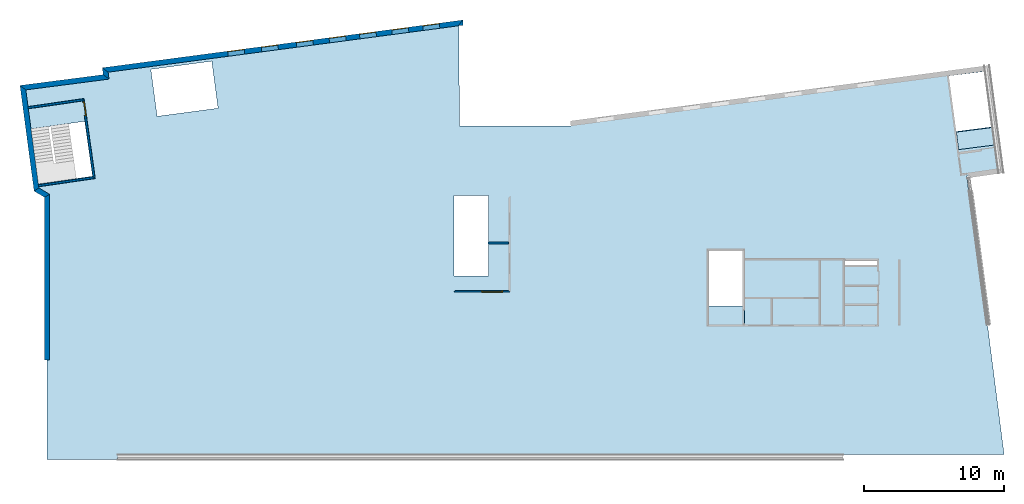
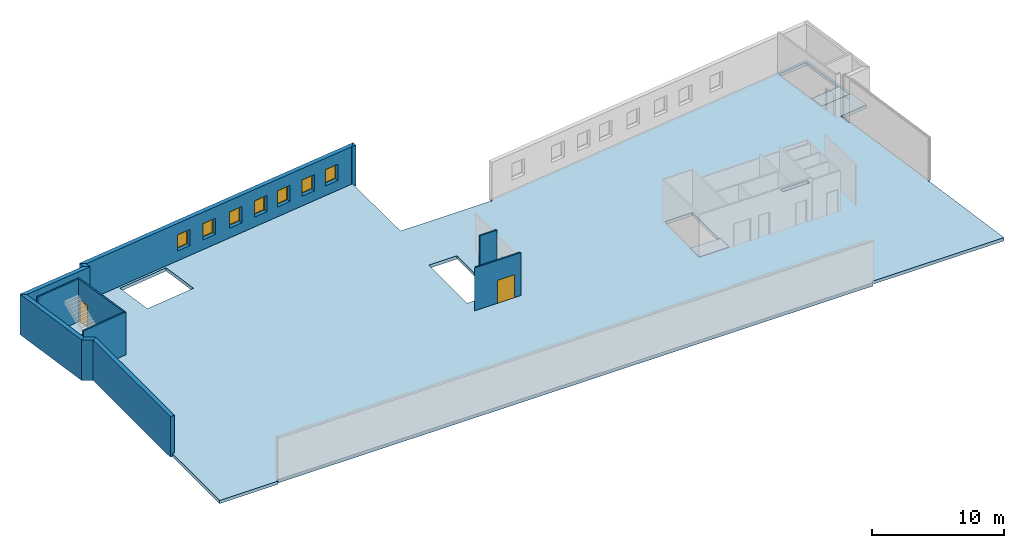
# One storey, part 1 of 9: 12 walls, 7 windows, 3 slabs, 2 doors, 15 openings.
"""IFC2X3 building model written with IfcOpenShell, lengths in metres."""

from ifc_helpers import new_model, entity, si_unit, converted_unit, money_unit, direction, frame, origin_with_axes, origin_2d_with_axis, place, context, subcontext, project, spatial, polyline, rectangle, outline, extrude, faceted_brep, source, transform, mapped, material, material_list, layer, layer_set, layer_usage, type_object, element, fill, save


model = new_model("IFC2X3")

# Units and contexts
model_context = context("Model", 3, precision=1e-05, world=origin_with_axes(), true_north=direction((0.0, 1.0)))
body_context = subcontext(model_context, "Body", "Model", "MODEL_VIEW")
ifc_project = project(units=[si_unit("LENGTHUNIT", "METRE"), si_unit("AREAUNIT", "SQUARE_METRE"), si_unit("VOLUMEUNIT", "CUBIC_METRE"), converted_unit("PLANEANGLEUNIT", "DEGREE", entity("IfcPlaneAngleMeasure", 0.0174532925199), si_unit("PLANEANGLEUNIT", "RADIAN"), dimensions=[0, 0, 0, 0, 0, 0, 0]), si_unit("SOLIDANGLEUNIT", "STERADIAN"), money_unit("EUR"), converted_unit("TIMEUNIT", "Year", entity("IfcTimeMeasure", 31556926.0), si_unit("TIMEUNIT", "SECOND"), dimensions=[0, 0, 0, 0, 0, 0, 0]), si_unit("MASSUNIT", "GRAM"), si_unit("THERMODYNAMICTEMPERATUREUNIT", "DEGREE_CELSIUS"), si_unit("LUMINOUSINTENSITYUNIT", "LUMEN")], contexts=[model_context])

# Site, building, storey
site_placement = place(None, origin_with_axes())
site = spatial("IfcSite", under=ifc_project, at=site_placement, Name="Undefined", CompositionType="ELEMENT")
building_placement = place(site_placement, origin_with_axes())
building = spatial("IfcBuilding", under=site, at=building_placement, Name="Undefined", CompositionType="ELEMENT")
storey_placement = place(building_placement, frame((0.0, 0.0, 13.45), z_axis=(0.0, 0.0, 1.0), x_axis=(1.0, 0.0, 0.0)))
storey = spatial("IfcBuildingStorey", under=building, at=storey_placement, Name="R+2", CompositionType="ELEMENT", Elevation=13.45)

# Slabs
ifc_material_1 = material(Name="% Ê25 359672764")
ifc_layer_1 = layer(ifc_material_1, 0.2, ventilated="UNKNOWN")
ifc_layer_set_1 = layer_set([ifc_layer_1], Name="% Ê25 359672764 0.2")
ifc_layer_usage_1 = layer_usage(ifc_layer_set_1, "AXIS3", "NEGATIVE", 0.2)
slab_type_1 = type_object("IfcSlabType", Name="% Ê25 359672764 200", PredefinedType="FLOOR")
slab_1_placement = place(storey_placement, frame((65.1308550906, 21.8584994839, 0.0), z_axis=(0.0, 0.0, 1.0), x_axis=(1.0, 0.0, 0.0)))
element("IfcSlab", 1, at=slab_1_placement, inside=storey, type_object=slab_type_1, material=ifc_layer_usage_1, Name="SLAB", ObjectType="200*31407", PredefinedType="FLOOR", context=body_context, shape_type="SweptSolid", body=[
    extrude(outline(polyline([(0.0, 0.0), (2.57257127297, 0.329360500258), (2.41175257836, 1.58548427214), (-0.160818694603, 1.25612377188), (0.0, 0.0)])), frame((0.0, 0.0, -0.2), z_axis=(0.0, 0.0, 1.0), x_axis=(1.0, 0.0, 0.0)), (0.0, 0.0, 1.0), 0.2),
])
ifc_layer_usage_2 = layer_usage(ifc_layer_set_1, "AXIS3", "NEGATIVE", 0.2)
slab_2_placement = place(storey_placement, frame((47.175, 9.3, 0.0), z_axis=(0.0, 0.0, 1.0), x_axis=(1.0, 0.0, 0.0)))
element("IfcSlab", 2, at=slab_2_placement, inside=storey, type_object=slab_type_1, material=ifc_layer_usage_2, Name="SLAB", ObjectType="200*31407", PredefinedType="FLOOR", context=body_context, shape_type="SweptSolid", body=[
    extrude(outline(polyline([(0.0, 0.0), (2.625, 0.0), (2.625, 1.34137655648), (0.0, 1.34137655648), (0.0, 0.0)])), frame((0.0, 0.0, -0.2), z_axis=(0.0, 0.0, 1.0), x_axis=(1.0, 0.0, 0.0)), (0.0, 0.0, 1.0), 0.2),
])

# Slab, openings
ifc_material_2 = material(Name="Struct. - Chape")
ifc_layer_2 = layer(ifc_material_2, 0.06, ventilated="UNKNOWN")
ifc_material_3 = material(Name="Isolation Int. - Polyur\x8ethane")
ifc_layer_3 = layer(ifc_material_3, 0.06, ventilated="UNKNOWN")
ifc_material_4 = material(Name="Struct. - B.A. coul\x8e")
ifc_layer_4 = layer(ifc_material_4, 0.18, ventilated="UNKNOWN")
ifc_layer_set_2 = layer_set([ifc_layer_2, ifc_layer_3, ifc_layer_4], Name="5.0-Dalle & Chape (Simplifi\x8e)")
ifc_layer_usage_3 = layer_usage(ifc_layer_set_2, "AXIS3", "NEGATIVE", 0.3)
slab_type_2 = type_object("IfcSlabType", Name="200*30675", PredefinedType="NOTDEFINED")
slab_3_placement = place(storey_placement, frame((-1.92907667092, 26.291143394, 0.0), z_axis=(0.0, 0.0, 1.0), x_axis=(1.0, 0.0, 0.0)))
slab_3 = element("IfcSlab", 3, at=slab_3_placement, inside=storey, type_object=slab_type_2, material=ifc_layer_usage_3, Name="SLAB", ObjectType="200*30749", PredefinedType="FLOOR", context=body_context, shape_type="SweptSolid", body=[
    extrude(outline(polyline([(0.0, 0.0), (0.973697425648, -7.29749334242), (1.73407667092, -7.74969683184), (1.73407667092, -26.6457025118), (6.80357304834, -26.6317334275), (6.80407667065, -26.4861433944), (58.7786423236, -26.4885152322), (58.7790766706, -26.2911433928), (70.3117266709, -26.291143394), (70.2985010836, -26.192021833), (70.3086688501, -26.1906119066), (69.1415122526, -17.082470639), (69.0840722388, -17.0902648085), (69.0706962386, -16.9911638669), (69.1817123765, -16.9763511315), (67.8943881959, -7.34977121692), (67.7767052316, -7.36458293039), (67.6422548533, -6.29621870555), (70.0817637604, -5.94765990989), (69.1088320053, 1.41362334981), (39.2533897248, -2.55374235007), (39.2790766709, -2.74704319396), (31.2954418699, -2.74705360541), (31.2475990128, 4.63848560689), (5.88914447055, 1.28077179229), (5.95519585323, 0.785742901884), (0.0, 0.0)])), frame((0.0, 0.0, -0.3), z_axis=(0.0, 0.0, 1.0), x_axis=(1.0, 0.0, 0.0)), (0.0, 0.0, 1.0), 0.3),
])
opening_1_placement = place(slab_3_placement, origin_with_axes())
element("IfcOpeningElement", 4, at=opening_1_placement, cuts=slab_3, Name="Slab Opening", context=body_context, shape_type="SweptSolid", body=[
    extrude(outline(polyline([(30.8891573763, -13.4910747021), (33.3571471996, -13.4910747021), (33.3571471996, -7.71107470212), (30.8891573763, -7.71107470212), (30.8891573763, -13.4910747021)])), frame((0.0, 0.0, -0.3), z_axis=(0.0, 0.0, 1.0), x_axis=(1.0, 0.0, 0.0)), (0.0, 0.0, 1.0), 0.3),
])
opening_2_placement = place(slab_3_placement, origin_with_axes())
element("IfcOpeningElement", 5, at=opening_2_placement, cuts=slab_3, Name="Slab Opening", context=body_context, shape_type="SweptSolid", body=[
    extrude(outline(polyline([(51.6040766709, -16.991143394), (51.6040766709, -11.6662395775), (49.1790766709, -11.6662395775), (49.1790766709, -16.991143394), (51.6040766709, -16.991143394)])), frame((0.0, 0.0, -0.3), z_axis=(0.0, 0.0, 1.0), x_axis=(1.0, 0.0, 0.0)), (0.0, 0.0, 1.0), 0.3),
])
opening_3_placement = place(slab_3_placement, origin_with_axes())
element("IfcOpeningElement", 6, at=opening_3_placement, cuts=slab_3, Name="Slab Opening", context=body_context, shape_type="SweptSolid", body=[
    extrude(outline(polyline([(58.8540766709, -12.366143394), (58.8540766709, -12.716143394), (61.2540766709, -12.716143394), (61.2540766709, -12.366143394), (58.8540766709, -12.366143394)])), frame((0.0, 0.0, -0.3), z_axis=(0.0, 0.0, 1.0), x_axis=(1.0, 0.0, 0.0)), (0.0, 0.0, 1.0), 0.3),
])
opening_4_placement = place(slab_3_placement, origin_with_axes())
element("IfcOpeningElement", 7, at=opening_4_placement, cuts=slab_3, Name="Slab Opening", context=body_context, shape_type="SweptSolid", body=[
    extrude(outline(polyline([(66.871058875, -3.13486957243), (69.4703582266, -2.801672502), (68.9376368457, 1.16966160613), (66.3389662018, 0.848833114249), (66.871058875, -3.13486957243)])), frame((0.0, 0.0, -0.3), z_axis=(0.0, 0.0, 1.0), x_axis=(1.0, 0.0, 0.0)), (0.0, 0.0, 1.0), 0.3),
])
opening_5_placement = place(slab_3_placement, origin_with_axes())
element("IfcOpeningElement", 8, at=opening_5_placement, cuts=slab_3, Name="Slab Opening", context=body_context, shape_type="SweptSolid", body=[
    extrude(outline(polyline([(9.1802689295, 1.3205673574), (9.62783463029, -2.04747908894), (13.9912887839, -1.46763779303), (13.5437230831, 1.90040865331), (9.1802689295, 1.3205673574)])), frame((0.0, 0.0, -0.3), z_axis=(0.0, 0.0, 1.0), x_axis=(1.0, 0.0, 0.0)), (0.0, 0.0, 1.0), 0.3),
])
opening_6_placement = place(slab_3_placement, origin_with_axes())
element("IfcOpeningElement", 9, at=opening_6_placement, cuts=slab_3, Name="Slab Opening", context=body_context, shape_type="SweptSolid", body=[
    extrude(outline(polyline([(0.605132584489, -2.95342469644), (1.16837552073, -6.88580394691), (4.99499918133, -6.33770860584), (4.43175624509, -2.40532935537), (0.605132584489, -2.95342469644)])), frame((0.0, 0.0, -0.3), z_axis=(0.0, 0.0, 1.0), x_axis=(1.0, 0.0, 0.0)), (0.0, 0.0, 1.0), 0.3),
])

# Wall
ifc_material_5 = material(Name="Finition int - Enduit pl\x89tre")
ifc_layer_5 = layer(ifc_material_5, 0.015, ventilated="UNKNOWN")
ifc_material_6 = material(Name="Struct. - Parpaing b\x8eton")
ifc_layer_6 = layer(ifc_material_6, 0.1, ventilated="UNKNOWN")
ifc_layer_7 = layer(ifc_material_5, 0.015, ventilated="UNKNOWN")
ifc_layer_set_3 = layer_set([ifc_layer_5, ifc_layer_6, ifc_layer_7], Name="0.0-Cloison: parpaing + pl\x89tre 2 faces copie")
ifc_layer_usage_4 = layer_usage(ifc_layer_set_3, "AXIS2", "NEGATIVE", 0.0)
wall_type_1 = type_object("IfcWallType", Name="0.0-Cloison: parpaing + pl\x89tre 2 faces copie 130", PredefinedType="NOTDEFINED")
wall_1_placement = place(storey_placement, frame((33.0137357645, 15.100969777, -0.12), z_axis=(0.0, 0.0, 1.0), x_axis=(-1.0, 0.0, 0.0)))
element("IfcWallStandardCase", 10, at=wall_1_placement, inside=storey, type_object=wall_type_1, material=ifc_layer_usage_4, Name="Wall_Int_02", ObjectType="WALL", context=body_context, shape_type="SweptSolid", body=[
    extrude(outline(polyline([(0.13, -0.13), (1.58893128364, -0.13), (1.58928017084, 0.0), (0.13, 0.0), (0.13, -0.13)])), origin_with_axes(), (0.0, 0.0, 1.0), 4.07),
])

# Wall, opening, door
ifc_layer_usage_5 = layer_usage(ifc_layer_set_3, "AXIS2", "NEGATIVE", 0.0)
wall_2_placement = place(storey_placement, frame((33.0137357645, 11.6449226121, -0.12), z_axis=(0.0, 0.0, 1.0), x_axis=(-1.0, 0.0, 0.0)))
wall_2 = element("IfcWallStandardCase", 11, at=wall_2_placement, inside=storey, type_object=wall_type_1, material=ifc_layer_usage_5, Name="Wall_Int_02", ObjectType="WALL", context=body_context, shape_type="SweptSolid", body=[
    extrude(outline(polyline([(0.13, -0.13), (3.92496966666, -0.13), (4.05496966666, 0.0), (0.0, 0.0), (0.13, -0.13)])), origin_with_axes(), (0.0, 0.0, 1.0), 4.07),
])
opening_7_placement = place(wall_2_placement, frame((1.31627256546, 0.0, 0.12), z_axis=(0.0, 0.0, 1.0), x_axis=(1.0, 0.0, 0.0)))
opening_7 = element("IfcOpeningElement", 12, at=opening_7_placement, cuts=wall_2, Name="DOOR", context=body_context, shape_type="SweptSolid", body=[
    extrude(rectangle(XDim=1.5, YDim=2.1, at=origin_2d_with_axis()), frame((0.0, 0.13, 1.05), z_axis=(0.0, -1.0, 0.0), x_axis=(1.0, 0.0, 0.0)), (0.0, 0.0, 1.0), 0.13),
    extrude(rectangle(XDim=1.5, YDim=2.1, at=origin_2d_with_axis()), frame((0.0, -0.13, 1.05), z_axis=(0.0, 1.0, 0.0), x_axis=(1.0, 0.0, 0.0)), (0.0, 0.0, 1.0), 0.13),
])
ifc_material_7 = material(Name="Background Fill-International")
ifc_material_8 = material(Name="Air Space")
ifc_material_list_1 = material_list([ifc_material_7, ifc_material_8])
door_style_1 = type_object("IfcDoorStyle", Name="IFC Porte double - Simple battant", ConstructionType="ALUMINIUM", OperationType="DOUBLE_DOOR_SINGLE_SWING", ParameterTakesPrecedence=True, Sizeable=False)
shared_shape_1 = source(origin_with_axes(), body_context, "Body", "Brep", [
    faceted_brep([(-0.75, 0.0, 0.0), (-0.7, 0.0, 0.0), (-0.7, -0.1, 0.0), (-0.75, -0.1, 0.0), (-0.75, 0.0, 2.1), (0.75, 0.0, 2.1), (0.75, 0.0, 0.0), (0.7, 0.0, 0.0), (0.7, 0.0, 2.05), (-0.7, 0.0, 2.05), (-0.7, -0.1, 2.05), (0.7, -0.1, 2.05), (0.7, -0.1, 0.0), (0.75, -0.1, 0.0), (0.75, -0.1, 2.1), (-0.75, -0.1, 2.1)], [[[0, 1, 2, 3]], [[0, 4, 5, 6, 7, 8, 9, 1]], [[1, 9, 10, 2]], [[3, 2, 10, 11, 12, 13, 14, 15]], [[4, 0, 3, 15]], [[5, 4, 15, 14]], [[6, 5, 14, 13]], [[7, 6, 13, 12]], [[8, 7, 12, 11]], [[9, 8, 11, 10]]]),
    faceted_brep([(0.7, 0.0, 0.0), (0.7, 0.0, 2.05), (0.7, -0.04, 2.05), (0.7, -0.04, 0.0), (0.0, 0.0, 0.0), (0.0, 0.0, 2.05), (0.0, -0.04, 2.05), (0.0, -0.04, 0.0)], [[[0, 1, 2, 3]], [[0, 4, 5, 1]], [[1, 5, 6, 2]], [[3, 2, 6, 7]], [[4, 0, 3, 7]], [[5, 4, 7, 6]]]),
    faceted_brep([(-0.7, 0.0, 0.0), (0.0, 0.0, 0.0), (0.0, -0.04, 0.0), (-0.7, -0.04, 0.0), (-0.7, 0.0, 2.05), (0.0, 0.0, 2.05), (0.0, -0.04, 2.05), (-0.7, -0.04, 2.05)], [[[0, 1, 2, 3]], [[0, 4, 5, 1]], [[1, 5, 6, 2]], [[3, 2, 6, 7]], [[4, 0, 3, 7]], [[5, 4, 7, 6]]]),
])
door_1_placement = place(opening_7_placement, frame((-0.75, 0.0, 0.0), z_axis=(0.0, 0.0, 1.0), x_axis=(1.0, 0.0, 0.0)))
door_1 = element("IfcDoor", 13, at=door_1_placement, inside=storey, type_object=door_style_1, material=ifc_material_list_1, Name="DOOR", ObjectType="DOOR", OverallHeight=2.1, OverallWidth=1.5, context=body_context, shape_type="MappedRepresentation", body=[
    mapped(shared_shape_1, transform((0.75, 0.0, 0.0))),
])
fill(opening_7, door_1)

# Wall
ifc_layer_usage_6 = layer_usage(ifc_layer_set_3, "AXIS2", "POSITIVE", 0.0)
wall_3_placement = place(storey_placement, frame((-1.71648521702, 24.773461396, 0.0), z_axis=(0.0, 0.0, 1.0), x_axis=(0.98989746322, 0.14178509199, 0.0)))
element("IfcWallStandardCase", 14, at=wall_3_placement, inside=storey, type_object=wall_type_1, material=ifc_layer_usage_6, Name="Wall_Int_02", context=body_context, shape_type="SweptSolid", body=[
    extrude(outline(polyline([(0.185008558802, 0.0), (4.10068565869, 0.0), (4.23113466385, 0.13), (0.186259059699, 0.13), (0.185008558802, 0.0)])), origin_with_axes(), (0.0, 0.0, 1.0), 3.95),
])

# Wall, opening, door
ifc_layer_usage_7 = layer_usage(ifc_layer_set_3, "AXIS2", "POSITIVE", 0.0)
wall_4_placement = place(storey_placement, frame((3.25035209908, 19.7984560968, 0.0), z_axis=(0.0, 0.0, 1.0), x_axis=(-0.138371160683, 0.990380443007, 0.0)))
wall_4 = element("IfcWallStandardCase", 15, at=wall_4_placement, inside=storey, type_object=wall_type_1, material=ifc_layer_usage_7, Name="Wall_Int_02", context=body_context, shape_type="SweptSolid", body=[
    extrude(outline(polyline([(0.0, 0.0), (5.75900284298, 0.0), (5.62855383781, 0.13), (0.129236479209, 0.13), (0.0, 0.0)])), origin_with_axes(), (0.0, 0.0, 1.0), 3.95),
])
opening_8_placement = place(wall_4_placement, frame((5.0365206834, 0.0, 0.0), z_axis=(0.0, 0.0, 1.0), x_axis=(1.0, 0.0, 0.0)))
opening_8 = element("IfcOpeningElement", 16, at=opening_8_placement, cuts=wall_4, Name="DOOR_1000", context=body_context, shape_type="SweptSolid", body=[
    extrude(rectangle(XDim=1.0, YDim=2.1, at=origin_2d_with_axis()), frame((0.0, -0.13, 1.05), z_axis=(0.0, 1.0, 0.0), x_axis=(1.0, 0.0, 0.0)), (0.0, 0.0, 1.0), 0.13),
    extrude(rectangle(XDim=1.0, YDim=2.1, at=origin_2d_with_axis()), frame((0.0, 0.13, 1.05), z_axis=(0.0, -1.0, 0.0), x_axis=(1.0, 0.0, 0.0)), (0.0, 0.0, 1.0), 0.13),
])
door_style_2 = type_object("IfcDoorStyle", Name="IFC Porte - Simple battant", ConstructionType="NOTDEFINED", OperationType="SINGLE_SWING_RIGHT", ParameterTakesPrecedence=True, Sizeable=False)
shared_shape_2 = source(origin_with_axes(), body_context, "Body", "Brep", [
    faceted_brep([(-0.5, 0.0, 0.0), (-0.45, 0.0, 0.0), (-0.45, -0.1, 0.0), (-0.5, -0.1, 0.0), (-0.5, 0.0, 2.1), (0.5, 0.0, 2.1), (0.5, 0.0, 0.0), (0.45, 0.0, 0.0), (0.45, 0.0, 2.05), (-0.45, 0.0, 2.05), (-0.45, -0.1, 2.05), (0.45, -0.1, 2.05), (0.45, -0.1, 0.0), (0.5, -0.1, 0.0), (0.5, -0.1, 2.1), (-0.5, -0.1, 2.1)], [[[0, 1, 2, 3]], [[0, 4, 5, 6, 7, 8, 9, 1]], [[1, 9, 10, 2]], [[3, 2, 10, 11, 12, 13, 14, 15]], [[4, 0, 3, 15]], [[5, 4, 15, 14]], [[6, 5, 14, 13]], [[7, 6, 13, 12]], [[8, 7, 12, 11]], [[9, 8, 11, 10]]]),
    faceted_brep([(0.45, 0.0, 0.0), (0.45, 0.0, 2.05), (0.45, -0.04, 2.05), (0.45, -0.04, 0.0), (-0.45, 0.0, 0.0), (-0.45, 0.0, 2.05), (-0.45, -0.04, 2.05), (-0.45, -0.04, 0.0)], [[[0, 1, 2, 3]], [[0, 4, 5, 1]], [[1, 5, 6, 2]], [[3, 2, 6, 7]], [[4, 0, 3, 7]], [[5, 4, 7, 6]]]),
])
door_2_placement = place(opening_8_placement, frame((0.5, 0.0, 0.0), z_axis=(0.0, 0.0, 1.0), x_axis=(-1.0, 0.0, 0.0)))
door_2 = element("IfcDoor", 17, at=door_2_placement, inside=storey, type_object=door_style_2, material=ifc_material_list_1, Name="DOOR_1000", ObjectType="DOOR", OverallHeight=2.1, OverallWidth=1.0, context=body_context, shape_type="MappedRepresentation", body=[
    mapped(shared_shape_2, transform((0.5, 0.0, 0.0))),
])
fill(opening_8, door_2)

# Walls
ifc_layer_usage_8 = layer_usage(ifc_layer_set_3, "AXIS2", "POSITIVE", 0.0)
wall_5_placement = place(storey_placement, frame((-0.970602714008, 19.1833545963, 0.0), z_axis=(0.0, 0.0, 1.0), x_axis=(0.989548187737, 0.144202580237, 0.0)))
element("IfcWallStandardCase", 18, at=wall_5_placement, inside=storey, type_object=wall_type_1, material=ifc_layer_usage_8, Name="Wall_Int_02", context=body_context, shape_type="SweptSolid", body=[
    extrude(outline(polyline([(0.185013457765, 0.0), (4.26553740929, 0.0), (4.13630093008, 0.13), (0.186581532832, 0.13), (0.185013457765, 0.0)])), origin_with_axes(), (0.0, 0.0, 1.0), 3.95),
])
ifc_material_9 = material(Name="Finition ext - Cr\x8epis")
ifc_layer_8 = layer(ifc_material_9, 0.015, ventilated="UNKNOWN")
ifc_material_10 = material(Name="Isolation - Fibres de bois")
ifc_layer_9 = layer(ifc_material_10, 0.16, ventilated="UNKNOWN")
ifc_material_11 = material(Name="Struct. - B.A. banch\x8e")
ifc_layer_10 = layer(ifc_material_11, 0.18, ventilated="UNKNOWN")
ifc_layer_11 = layer(ifc_material_5, 0.015, ventilated="UNKNOWN")
ifc_layer_set_4 = layer_set([ifc_layer_8, ifc_layer_9, ifc_layer_10, ifc_layer_11], Name="1.2-Mur ext: rev\x8et ext + isol ext + ma\x8donnerie + enduit")
ifc_layer_usage_9 = layer_usage(ifc_layer_set_4, "AXIS2", "POSITIVE", 0.0)
wall_type_2 = type_object("IfcWallType", Name="1.2-Mur ext: rev\x8et ext + isol ext + ma\x8donnerie + enduit 370", PredefinedType="NOTDEFINED")
wall_6_placement = place(storey_placement, frame((-0.37, 18.6571551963, -0.3), z_axis=(0.0, 0.0, 1.0), x_axis=(0.0, -1.0, 0.0)))
element("IfcWallStandardCase", 19, at=wall_6_placement, inside=storey, type_object=wall_type_2, material=ifc_layer_usage_9, Name="WallEx", context=body_context, shape_type="SweptSolid", body=[
    extrude(outline(polyline([(0.215243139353, 0.0), (11.8569156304, 0.0), (11.8569156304, 0.37), (0.00479875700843, 0.37), (0.215243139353, 0.0)])), origin_with_axes(), (0.0, 0.0, 1.0), 3.75),
])

# Wall, openings, windows
ifc_layer_usage_10 = layer_usage(ifc_layer_set_4, "AXIS2", "POSITIVE", 0.0)
wall_7_placement = place(storey_placement, frame((29.6202598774, 31.1461094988, -0.3), z_axis=(0.0, 0.0, 1.0), x_axis=(-0.991347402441, -0.131264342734, 0.0)))
wall_7 = element("IfcWallStandardCase", 20, at=wall_7_placement, inside=storey, type_object=wall_type_2, material=ifc_layer_usage_10, Name="WallEx02", ObjectType="WALL", context=body_context, shape_type="SweptSolid", body=[
    extrude(outline(polyline([(0.0, 0.0), (26.0743044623, 0.0), (25.7039336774, 0.37), (0.417235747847, 0.37), (0.0, 0.0)])), origin_with_axes(), (0.0, 0.0, 1.0), 3.75),
])
opening_9_placement = place(wall_7_placement, frame((16.4212183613, 0.0, 1.2), z_axis=(0.0, 0.0, 1.0), x_axis=(1.0, 0.0, 0.0)))
opening_9 = element("IfcOpeningElement", 21, at=opening_9_placement, cuts=wall_7, Name="Window_1200", context=body_context, shape_type="SweptSolid", body=[
    extrude(rectangle(XDim=1.2, YDim=1.5, at=origin_2d_with_axis()), frame((0.0, 0.37, 0.75), z_axis=(0.0, 1.0, 0.0), x_axis=(-1.0, 0.0, 0.0)), (0.0, 0.0, -1.0), 1.11),
])
opening_10_placement = place(wall_7_placement, frame((13.9913884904, 0.0, 1.2), z_axis=(0.0, 0.0, 1.0), x_axis=(1.0, 0.0, 0.0)))
opening_10 = element("IfcOpeningElement", 22, at=opening_10_placement, cuts=wall_7, Name="Window_1200", context=body_context, shape_type="SweptSolid", body=[
    extrude(rectangle(XDim=1.2, YDim=1.5, at=origin_2d_with_axis()), frame((0.0, 0.37, 0.75), z_axis=(0.0, 1.0, 0.0), x_axis=(-1.0, 0.0, 0.0)), (0.0, 0.0, -1.0), 1.11),
])
opening_11_placement = place(wall_7_placement, frame((11.4641983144, 0.0, 1.2), z_axis=(0.0, 0.0, 1.0), x_axis=(1.0, 0.0, 0.0)))
opening_11 = element("IfcOpeningElement", 23, at=opening_11_placement, cuts=wall_7, Name="Window_1200", context=body_context, shape_type="SweptSolid", body=[
    extrude(rectangle(XDim=1.2, YDim=1.5, at=origin_2d_with_axis()), frame((0.0, 0.37, 0.75), z_axis=(0.0, 1.0, 0.0), x_axis=(-1.0, 0.0, 0.0)), (0.0, 0.0, -1.0), 1.11),
])
opening_12_placement = place(wall_7_placement, frame((9.09177664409, 0.0, 1.2), z_axis=(0.0, 0.0, 1.0), x_axis=(1.0, 0.0, 0.0)))
opening_12 = element("IfcOpeningElement", 24, at=opening_12_placement, cuts=wall_7, Name="Window_1200", context=body_context, shape_type="SweptSolid", body=[
    extrude(rectangle(XDim=1.2, YDim=1.5, at=origin_2d_with_axis()), frame((0.0, 0.37, 0.75), z_axis=(0.0, 1.0, 0.0), x_axis=(-1.0, 0.0, 0.0)), (0.0, 0.0, -1.0), 1.11),
])
opening_13_placement = place(wall_7_placement, frame((6.89945895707, 0.0, 1.2), z_axis=(0.0, 0.0, 1.0), x_axis=(1.0, 0.0, 0.0)))
opening_13 = element("IfcOpeningElement", 25, at=opening_13_placement, cuts=wall_7, Name="Window_1200", context=body_context, shape_type="SweptSolid", body=[
    extrude(rectangle(XDim=1.2, YDim=1.5, at=origin_2d_with_axis()), frame((0.0, 0.37, 0.75), z_axis=(0.0, 1.0, 0.0), x_axis=(-1.0, 0.0, 0.0)), (0.0, 0.0, -1.0), 1.11),
])
opening_14_placement = place(wall_7_placement, frame((4.56127719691, 0.0, 1.2), z_axis=(0.0, 0.0, 1.0), x_axis=(1.0, 0.0, 0.0)))
opening_14 = element("IfcOpeningElement", 26, at=opening_14_placement, cuts=wall_7, Name="Window_1200", context=body_context, shape_type="SweptSolid", body=[
    extrude(rectangle(XDim=1.2, YDim=1.5, at=origin_2d_with_axis()), frame((0.0, 0.37, 0.75), z_axis=(0.0, 1.0, 0.0), x_axis=(-1.0, 0.0, 0.0)), (0.0, 0.0, -1.0), 1.11),
])
opening_15_placement = place(wall_7_placement, frame((2.32257489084, 0.0, 1.2), z_axis=(0.0, 0.0, 1.0), x_axis=(1.0, 0.0, 0.0)))
opening_15 = element("IfcOpeningElement", 27, at=opening_15_placement, cuts=wall_7, Name="Window_1200", context=body_context, shape_type="SweptSolid", body=[
    extrude(rectangle(XDim=1.2, YDim=1.5, at=origin_2d_with_axis()), frame((0.0, 0.37, 0.75), z_axis=(0.0, 1.0, 0.0), x_axis=(-1.0, 0.0, 0.0)), (0.0, 0.0, -1.0), 1.11),
])
ifc_material_12 = material(Name="07 | Insulation Rigid")
ifc_material_list_2 = material_list([ifc_material_7, ifc_material_8, ifc_material_7, ifc_material_7, ifc_material_7, ifc_material_12, ifc_material_7, ifc_material_7, ifc_material_7, ifc_material_7, ifc_material_8, ifc_material_7, ifc_material_7])
window_style = type_object("IfcWindowStyle", Name="Fen\x90tre 18", ConstructionType="NOTDEFINED", OperationType="DOUBLE_PANEL_HORIZONTAL", ParameterTakesPrecedence=False, Sizeable=False)
shared_shape_3 = source(origin_with_axes(), body_context, "Body", "Brep", [
    faceted_brep([(0.55, -0.05, 1.1), (0.55, -0.05, 1.2), (0.55, 0.0, 1.2), (0.55, 0.0, 1.1), (0.55, -0.05, 0.05), (0.6, -0.05, 0.0), (0.6, -0.05, 1.5), (0.55, -0.05, 1.45), (0.55, 0.0, 1.45), (0.6, 0.0, 1.5), (0.6, 0.0, 0.0), (0.55, 0.0, 0.05)], [[[0, 1, 2, 3]], [[0, 4, 5, 6, 7, 1]], [[1, 7, 8, 2]], [[3, 2, 8, 9, 10, 11]], [[4, 0, 3, 11]], [[5, 4, 11, 10]], [[6, 5, 10, 9]], [[7, 6, 9, 8]]]),
    faceted_brep([(-0.55, -0.05, 0.05), (-0.6, -0.05, 0.0), (-0.6, 0.0, 0.0), (-0.55, 0.0, 0.05), (-0.55, -0.05, 1.1), (-0.55, -0.05, 1.2), (-0.55, -0.05, 1.45), (-0.6, -0.05, 1.5), (-0.6, 0.0, 1.5), (-0.55, 0.0, 1.45), (-0.55, 0.0, 1.2), (-0.55, 0.0, 1.1)], [[[0, 1, 2, 3]], [[0, 4, 5, 6, 7, 1]], [[1, 7, 8, 2]], [[3, 2, 8, 9, 10, 11]], [[4, 0, 3, 11]], [[5, 4, 11, 10]], [[6, 5, 10, 9]], [[7, 6, 9, 8]]]),
    faceted_brep([(0.55, -0.05, 1.2), (0.55, -0.05, 1.1), (0.55, 0.0, 1.1), (0.55, 0.0, 1.2), (-0.55, -0.05, 1.2), (-0.55, -0.05, 1.1), (-0.55, 0.0, 1.1), (-0.55, 0.0, 1.2)], [[[0, 1, 2, 3]], [[0, 4, 5, 1]], [[1, 5, 6, 2]], [[3, 2, 6, 7]], [[4, 0, 3, 7]], [[5, 4, 7, 6]]]),
    faceted_brep([(0.55, -0.05, 0.05), (0.6, -0.05, 0.0), (0.6, 0.0, 0.0), (0.55, 0.0, 0.05), (-0.55, -0.05, 0.05), (-0.6, -0.05, 0.0), (-0.6, 0.0, 0.0), (-0.55, 0.0, 0.05)], [[[0, 1, 2, 3]], [[0, 4, 5, 1]], [[1, 5, 6, 2]], [[3, 2, 6, 7]], [[4, 0, 3, 7]], [[5, 4, 7, 6]]]),
    faceted_brep([(-0.55, -0.05, 1.45), (-0.6, -0.05, 1.5), (-0.6, 0.0, 1.5), (-0.55, 0.0, 1.45), (0.55, -0.05, 1.45), (0.6, -0.05, 1.5), (0.6, 0.0, 1.5), (0.55, 0.0, 1.45)], [[[0, 1, 2, 3]], [[0, 4, 5, 1]], [[1, 5, 6, 2]], [[3, 2, 6, 7]], [[4, 0, 3, 7]], [[5, 4, 7, 6]]]),
    faceted_brep([(0.55, -0.035, 1.2), (-0.55, -0.035, 1.2), (-0.55, -0.015, 1.2), (0.55, -0.015, 1.2), (0.55, -0.035, 1.45), (-0.55, -0.035, 1.45), (-0.55, -0.015, 1.45), (0.55, -0.015, 1.45)], [[[0, 1, 2, 3]], [[0, 4, 5, 1]], [[1, 5, 6, 2]], [[3, 2, 6, 7]], [[4, 0, 3, 7]], [[5, 4, 7, 6]]]),
    faceted_brep([(0.55, -0.035, 0.05), (-0.55, -0.035, 0.05), (-0.55, -0.015, 0.05), (0.55, -0.015, 0.05), (0.55, -0.035, 1.1), (-0.55, -0.035, 1.1), (-0.55, -0.015, 1.1), (0.55, -0.015, 1.1)], [[[0, 1, 2, 3]], [[0, 4, 5, 1]], [[1, 5, 6, 2]], [[3, 2, 6, 7]], [[4, 0, 3, 7]], [[5, 4, 7, 6]]]),
])
window_1_placement = place(opening_9_placement, frame((-0.6, 0.0, 0.0), z_axis=(0.0, 0.0, 1.0), x_axis=(1.0, 0.0, 0.0)))
window_1 = element("IfcWindow", 28, at=window_1_placement, inside=storey, type_object=window_style, material=ifc_material_list_2, Name="Window_1200", ObjectType="WINDOW", OverallHeight=1.5, OverallWidth=1.2, context=body_context, shape_type="MappedRepresentation", body=[
    mapped(shared_shape_3, transform((0.6, 0.05, 0.0))),
])
fill(opening_9, window_1)
window_2_placement = place(opening_10_placement, frame((-0.6, 0.0, 0.0), z_axis=(0.0, 0.0, 1.0), x_axis=(1.0, 0.0, 0.0)))
window_2 = element("IfcWindow", 29, at=window_2_placement, inside=storey, type_object=window_style, material=ifc_material_list_2, Name="Window_1200", ObjectType="WINDOW", OverallHeight=1.5, OverallWidth=1.2, context=body_context, shape_type="MappedRepresentation", body=[
    mapped(shared_shape_3, transform((0.6, 0.05, 0.0))),
])
fill(opening_10, window_2)
window_3_placement = place(opening_11_placement, frame((-0.6, 0.0, 0.0), z_axis=(0.0, 0.0, 1.0), x_axis=(1.0, 0.0, 0.0)))
window_3 = element("IfcWindow", 30, at=window_3_placement, inside=storey, type_object=window_style, material=ifc_material_list_2, Name="Window_1200", ObjectType="WINDOW", OverallHeight=1.5, OverallWidth=1.2, context=body_context, shape_type="MappedRepresentation", body=[
    mapped(shared_shape_3, transform((0.6, 0.05, 0.0))),
])
fill(opening_11, window_3)
window_4_placement = place(opening_12_placement, frame((-0.6, 0.0, 0.0), z_axis=(0.0, 0.0, 1.0), x_axis=(1.0, 0.0, 0.0)))
window_4 = element("IfcWindow", 31, at=window_4_placement, inside=storey, type_object=window_style, material=ifc_material_list_2, Name="Window_1200", ObjectType="WINDOW", OverallHeight=1.5, OverallWidth=1.2, context=body_context, shape_type="MappedRepresentation", body=[
    mapped(shared_shape_3, transform((0.6, 0.05, 0.0))),
])
fill(opening_12, window_4)
window_5_placement = place(opening_13_placement, frame((-0.6, 0.0, 0.0), z_axis=(0.0, 0.0, 1.0), x_axis=(1.0, 0.0, 0.0)))
window_5 = element("IfcWindow", 32, at=window_5_placement, inside=storey, type_object=window_style, material=ifc_material_list_2, Name="Window_1200", ObjectType="WINDOW", OverallHeight=1.5, OverallWidth=1.2, context=body_context, shape_type="MappedRepresentation", body=[
    mapped(shared_shape_3, transform((0.6, 0.05, 0.0))),
])
fill(opening_13, window_5)
window_6_placement = place(opening_14_placement, frame((-0.6, 0.0, 0.0), z_axis=(0.0, 0.0, 1.0), x_axis=(1.0, 0.0, 0.0)))
window_6 = element("IfcWindow", 33, at=window_6_placement, inside=storey, type_object=window_style, material=ifc_material_list_2, Name="Window_1200", ObjectType="WINDOW", OverallHeight=1.5, OverallWidth=1.2, context=body_context, shape_type="MappedRepresentation", body=[
    mapped(shared_shape_3, transform((0.6, 0.05, 0.0))),
])
fill(opening_14, window_6)
window_7_placement = place(opening_15_placement, frame((-0.6, 0.0, 0.0), z_axis=(0.0, 0.0, 1.0), x_axis=(1.0, 0.0, 0.0)))
window_7 = element("IfcWindow", 34, at=window_7_placement, inside=storey, type_object=window_style, material=ifc_material_list_2, Name="Window_1200", ObjectType="WINDOW", OverallHeight=1.5, OverallWidth=1.2, context=body_context, shape_type="MappedRepresentation", body=[
    mapped(shared_shape_3, transform((0.6, 0.05, 0.0))),
])
fill(opening_15, window_7)

# Walls
ifc_layer_usage_11 = layer_usage(ifc_layer_set_4, "AXIS2", "POSITIVE", 0.0)
wall_8_placement = place(storey_placement, frame((3.83754908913, 27.2289650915, -0.3), z_axis=(0.0, 0.0, 1.0), x_axis=(-0.991731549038, -0.128329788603, 0.0)))
element("IfcWallStandardCase", 35, at=wall_8_placement, inside=storey, type_object=wall_type_2, material=ifc_layer_usage_11, Name="WallEx02", ObjectType="WALL", context=body_context, shape_type="SweptSolid", body=[
    extrude(outline(polyline([(0.0, 0.0), (6.01504925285, 0.0), (5.64358081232, 0.37), (-0.371468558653, 0.37), (0.0, 0.0)])), origin_with_axes(), (0.0, 0.0, 1.0), 3.75),
])
ifc_layer_usage_12 = layer_usage(ifc_layer_set_4, "AXIS2", "POSITIVE", 0.0)
wall_9_placement = place(storey_placement, frame((3.77156587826, 27.7234830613, -0.3), z_axis=(0.0, 0.0, 1.0), x_axis=(0.1322572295, -0.991215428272, 0.0)))
element("IfcWallStandardCase", 36, at=wall_9_placement, inside=storey, type_object=wall_type_2, material=ifc_layer_usage_12, Name="WallEx02", ObjectType="WALL", context=body_context, shape_type="SweptSolid", body=[
    extrude(outline(polyline([(0.0, 0.0), (0.498900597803, 0.0), (0.870369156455, 0.37), (0.370370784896, 0.37), (0.0, 0.0)])), origin_with_axes(), (0.0, 0.0, 1.0), 3.75),
])
ifc_layer_usage_13 = layer_usage(ifc_layer_set_4, "AXIS2", "POSITIVE", -0.185)
wall_10_placement = place(storey_placement, frame((-1.94429324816, 26.4807962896, -0.3), z_axis=(0.0, 0.0, 1.0), x_axis=(0.132256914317, -0.991215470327, 0.0)))
element("IfcWallStandardCase", 37, at=wall_10_placement, inside=storey, type_object=wall_type_2, material=ifc_layer_usage_13, Name="WallEx", context=body_context, shape_type="SweptSolid", body=[
    extrude(outline(polyline([(-0.000732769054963, -0.185), (7.63687668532, -0.185), (7.45777387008, 0.185), (0.370735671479, 0.185), (-0.000732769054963, -0.185)])), origin_with_axes(), (0.0, 0.0, 1.0), 3.75),
])
ifc_layer_usage_14 = layer_usage(ifc_layer_set_4, "AXIS2", "POSITIVE", -0.185)
wall_11_placement = place(storey_placement, frame((-0.946107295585, 18.9997707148, -0.3), z_axis=(0.0, 0.0, 1.0), x_axis=(0.859493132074, -0.51114729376, 0.0)))
element("IfcWallStandardCase", 38, at=wall_11_placement, inside=storey, type_object=wall_type_2, material=ifc_layer_usage_14, Name="WallEx", context=body_context, shape_type="SweptSolid", body=[
    extrude(outline(polyline([(-0.0895514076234, -0.185), (0.780308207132, -0.185), (0.990752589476, 0.185), (0.0895514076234, 0.185), (-0.0895514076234, -0.185)])), origin_with_axes(), (0.0, 0.0, 1.0), 3.75),
])
ifc_layer_usage_15 = layer_usage(ifc_layer_set_4, "AXIS2", "NEGATIVE", 0.0)
wall_12_placement = place(storey_placement, frame((29.6202598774, 31.1461094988, -0.3), z_axis=(0.0, 0.0, 1.0), x_axis=(0.0117836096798, -0.999930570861, 0.0)))
element("IfcWallStandardCase", 39, at=wall_12_placement, inside=storey, type_object=wall_type_2, material=ifc_layer_usage_15, Name="WallEx02", ObjectType="WALL", context=body_context, shape_type="SweptSolid", body=[
    extrude(outline(polyline([(0.417235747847, -0.37), (0.39494265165, -0.37), (0.39494265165, 0.0), (0.0, 0.0), (0.417235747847, -0.37)])), origin_with_axes(), (0.0, 0.0, 1.0), 3.75),
])

save(model, "model.ifc")
